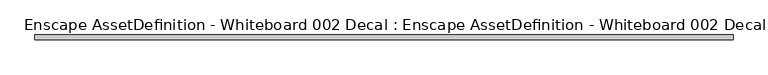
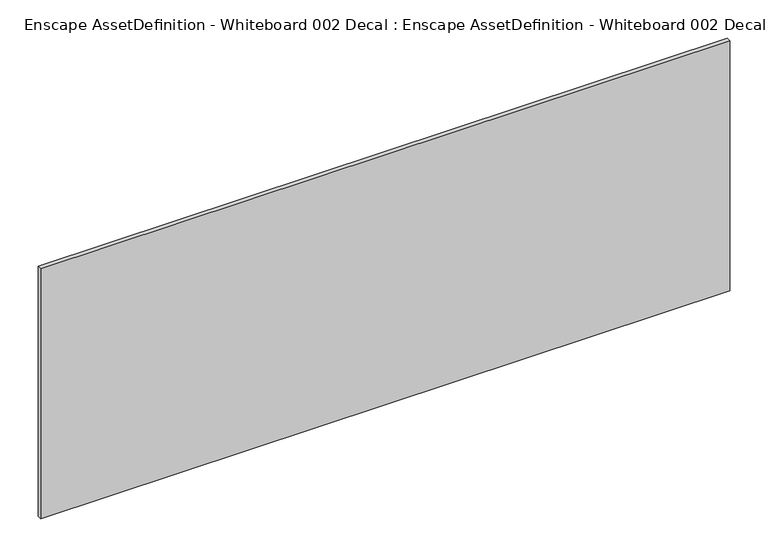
"""IFC4 building model written with IfcOpenShell, lengths in millimetres: geographic element geometry, Enscape AssetDefinition - Whiteboard 002 Decal : Enscape AssetDefinition - Whiteboard 002 Decal."""

from ifc_helpers import new_model, si_unit, origin, place, context, project, spatial, triangles, source, transform, mapped, element, save


def enscape_assetdefinition_whiteboard_002_decal_enscape_3466a05c(model_context):
    return source(origin(), model_context, "Body", "Tessellation", [
        triangles([(521.7391565, -6.9565215, 200.0000015), (521.7391565, 0.0, -200.0000015), (-521.7391565, 0.0, -200.0000015), (-521.7391565, -6.9565215, 200.0000015), (-521.7391565, 0.0, 200.0000015), (521.7391565, -6.9565215, -200.0000015), (-521.7391565, -6.9565215, -200.0000015), (521.7391565, 0.0, 200.0000015)], [[7, 6, 1], [3, 7, 4], [8, 1, 6], [2, 6, 7], [5, 4, 1], [5, 8, 2], [7, 1, 4], [3, 4, 5], [8, 6, 2], [2, 7, 3], [5, 1, 8], [5, 2, 3]]),
    ])


if __name__ == "__main__":
    model = new_model("IFC4")
    model_context = context("Model", 3, world=origin())
    ifc_project = project(units=[si_unit("LENGTHUNIT", "METRE", prefix="MILLI")], contexts=[model_context])
    site = spatial("IfcSite", under=ifc_project)
    building = spatial("IfcBuilding", under=site)
    placement = place(None, origin())
    enscape_assetdefinition_whiteboard_002_decal_enscape_shape = enscape_assetdefinition_whiteboard_002_decal_enscape_3466a05c(model_context)
    element("IfcGeographicElement", 1, ObjectType="Enscape AssetDefinition - Whiteboard 002 Decal : Enscape AssetDefinition - Whiteboard 002 Decal", at=placement, inside=building, context=model_context, shape_type="MappedRepresentation", body=[
        mapped(enscape_assetdefinition_whiteboard_002_decal_enscape_shape, transform((0.0, 0.0, 0.0), x_axis=(1.0, 0.0, 0.0), y_axis=(0.0, 1.0, 0.0), z_axis=(0.0, 0.0, 1.0))),
    ])
    save(model, "model.ifc")
